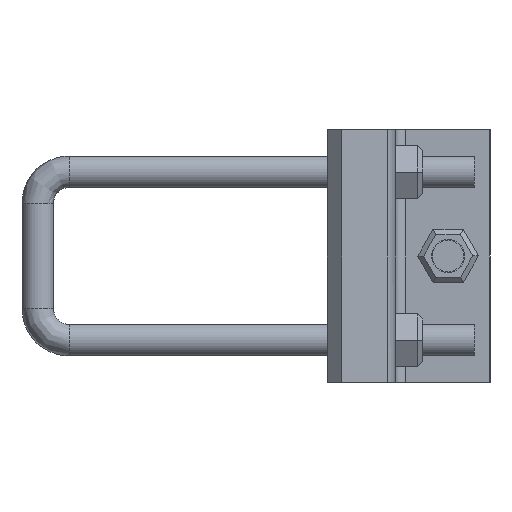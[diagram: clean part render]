
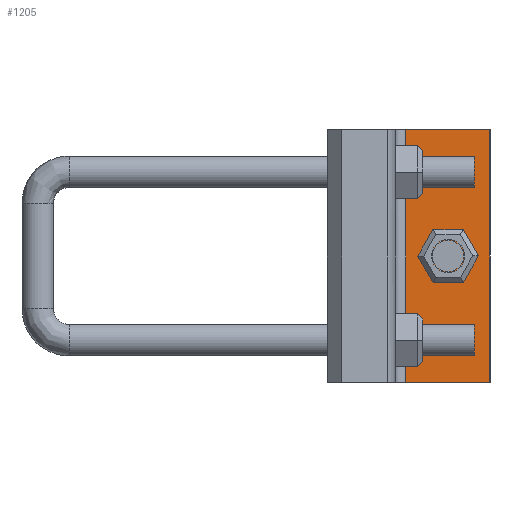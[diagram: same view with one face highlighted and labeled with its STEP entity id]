
A CAD part, left-side view. The second image highlights one B-rep face of the part: STEP entity #1205.
In plain terms, the highlighted planar face has unit normal (-1, 0, 0).
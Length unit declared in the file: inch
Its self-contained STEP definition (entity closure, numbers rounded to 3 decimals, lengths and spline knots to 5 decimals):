
#665=EDGE_CURVE('',#1794,#1778,#1795,.T.);
#671=EDGE_CURVE('',#1805,#1806,#1807,.T.);
#691=EDGE_CURVE('',#1778,#1805,#1840,.T.);
#993=EDGE_CURVE('',#1794,#1806,#2325,.T.);
#1205=ADVANCED_FACE('',(#2620,#2621),#2622,.T.);
#1778=VERTEX_POINT('',#3331);
#1794=VERTEX_POINT('',#3353);
#1795=LINE('',#3354,#3355);
#1805=VERTEX_POINT('',#3368);
#1806=VERTEX_POINT('',#3369);
#1807=LINE('',#3370,#3371);
#1840=LINE('',#3426,#3427);
#2325=LINE('',#4294,#4295);
#2620=FACE_OUTER_BOUND('',#4871,.T.);
#2621=FACE_BOUND('',#4872,.T.);
#2622=PLANE('',#4873);
#3331=CARTESIAN_POINT('',(-6.0,0.0,0.));
#3353=CARTESIAN_POINT('',(-6.0,1.0,0.));
#3354=CARTESIAN_POINT('',(-6.0,1.0,0.));
#3355=VECTOR('',#6397,1.);
#3368=CARTESIAN_POINT('',(-6.0,0.0,3.0));
#3369=CARTESIAN_POINT('',(-6.0,1.0,3.0));
#3370=CARTESIAN_POINT('',(-6.0,1.0,3.0));
#3371=VECTOR('',#6413,1.);
#3426=CARTESIAN_POINT('',(-6.0,0.0,0.));
#3427=VECTOR('',#6446,1.);
#4294=CARTESIAN_POINT('',(-6.0,1.0,0.));
#4295=VECTOR('',#6931,1.);
#4871=EDGE_LOOP('',(#7301,#7302,#7303,#7304));
#4872=EDGE_LOOP('',(#7305,#7306));
#4873=AXIS2_PLACEMENT_3D('',#7307,#7308,#7309);
#6397=DIRECTION('',(0.0,-1.0,0.0));
#6413=DIRECTION('',(0.0,1.0,0.0));
#6446=DIRECTION('',(0.0,0.0,1.0));
#6931=DIRECTION('',(0.0,0.0,1.0));
#7301=ORIENTED_EDGE('',*,*,#671,.T.);
#7302=ORIENTED_EDGE('',*,*,#993,.F.);
#7303=ORIENTED_EDGE('',*,*,#665,.T.);
#7304=ORIENTED_EDGE('',*,*,#691,.T.);
#7305=ORIENTED_EDGE('',*,*,#8243,.F.);
#7306=ORIENTED_EDGE('',*,*,#8244,.F.);
#7307=CARTESIAN_POINT('',(-6.0,0.5,0.));
#7308=DIRECTION('',(-1.0,0.0,0.0));
#7309=DIRECTION('',(0.0,-1.0,0.0));
#8243=EDGE_CURVE('',#8520,#8521,#8522,.T.);
#8244=EDGE_CURVE('',#8521,#8520,#8523,.T.);
#8520=VERTEX_POINT('',#8829);
#8521=VERTEX_POINT('',#8830);
#8522=CIRCLE('',#8831,0.1875);
#8523=CIRCLE('',#8832,0.1875);
#8829=CARTESIAN_POINT('',(-6.0,0.31237,1.5));
#8830=CARTESIAN_POINT('',(-6.0,0.68737,1.5));
#8831=AXIS2_PLACEMENT_3D('',#9055,#9056,#9057);
#8832=AXIS2_PLACEMENT_3D('',#9058,#9059,#9060);
#9055=CARTESIAN_POINT('',(-6.0,0.49987,1.5));
#9056=DIRECTION('',(-1.0,0.0,0.0));
#9057=DIRECTION('',(0.0,1.0,0.0));
#9058=CARTESIAN_POINT('',(-6.0,0.49987,1.5));
#9059=DIRECTION('',(-1.0,0.0,0.0));
#9060=DIRECTION('',(0.0,1.0,0.0));
